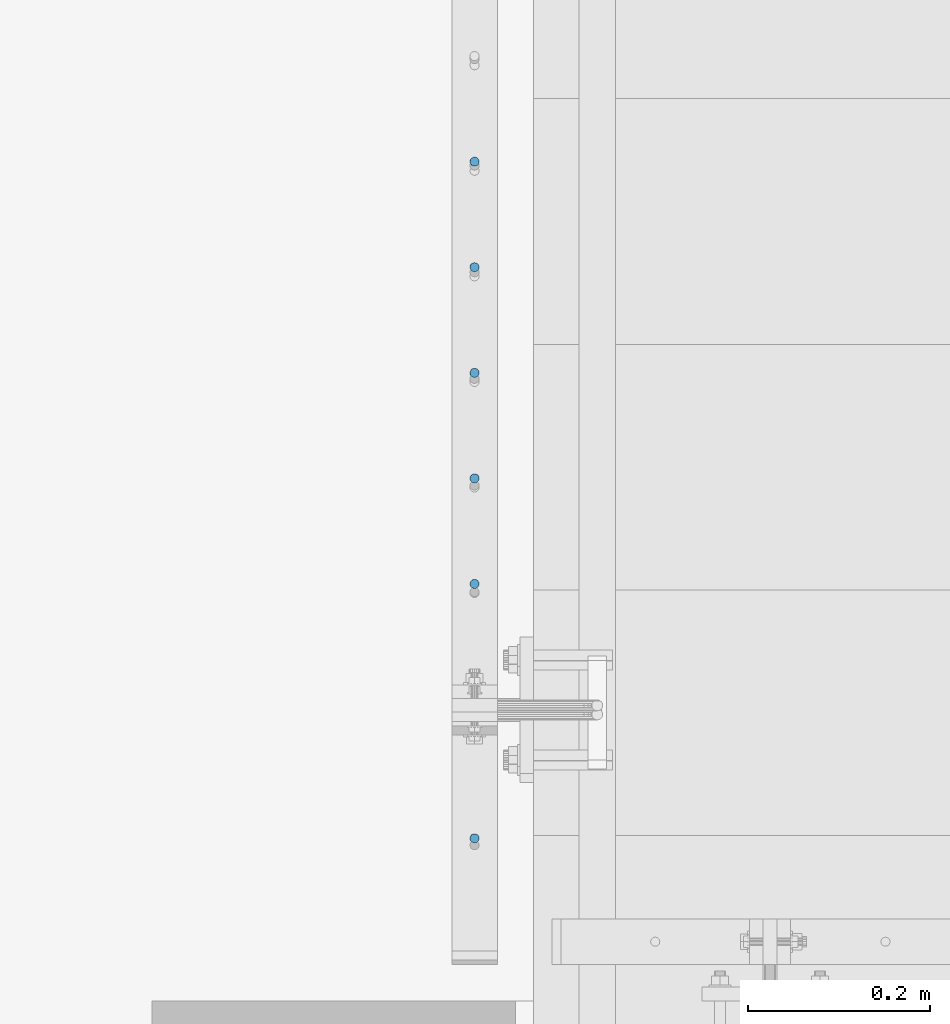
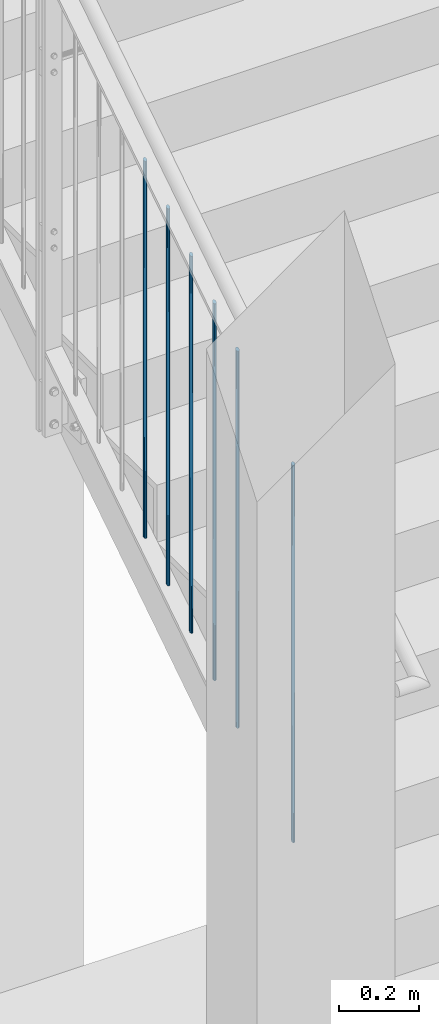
# One storey, part 3 of 296: 6 columns.
"""IFC2X3 building model written with IfcOpenShell, lengths in millimetres."""

from ifc_helpers import new_model, entity, si_unit, converted_unit, frame, origin, origin_with_axes, origin_2d, place, context, project, spatial, circle, extrude, clip, halfspace, material, element, save


model = new_model("IFC2X3")

# Units and contexts
model_context = context("Model", 3, precision=1e-09, world=origin_with_axes())
ifc_project = project(units=[si_unit("LENGTHUNIT", "METRE", prefix="MILLI"), si_unit("AREAUNIT", "SQUARE_METRE"), si_unit("VOLUMEUNIT", "CUBIC_METRE"), converted_unit("PLANEANGLEUNIT", "DEGREE", entity("IfcPlaneAngleMeasure", 0.01745329), si_unit("PLANEANGLEUNIT", "RADIAN"), dimensions=[0, 0, 0, 0, 0, 0, 0])], contexts=[model_context])

# Site, building, storey
site_placement = place(None, origin_with_axes())
site = spatial("IfcSite", under=ifc_project, at=site_placement, Name="TZD-S?d | Treppenhausgel?nder", CompositionType="ELEMENT")
building_placement = place(site_placement, origin_with_axes())
building = spatial("IfcBuilding", under=site, at=building_placement, Name="Struktur 1", CompositionType="ELEMENT")
storey_placement = place(building_placement, origin_with_axes())
storey = spatial("IfcBuildingStorey", under=building, at=storey_placement, Name="Default Storey", CompositionType="ELEMENT", Elevation=0.0)

# Columns
ifc_material = material(Name="S235JR")
column_1_placement = place(None, frame((-45.0, -3596.25, 10251.662806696), z_axis=(0.0, 0.0, 1.0), x_axis=(0.0, 1.0, 0.0)))
element("IfcColumn", 1, at=column_1_placement, inside=storey, material=ifc_material, Name="-", ObjectType="-", context=model_context, shape_type="Clipping", body=[
    clip(clip(extrude(circle(Radius=5.0, at=origin_2d()), origin(), (0.0, 0.0, 1.0), 1184.934501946), halfspace(frame((-2149.423802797, -45.0, -1377.246880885), z_axis=(-0.543478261, 0.0, 0.839423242), x_axis=(0.0, -1.0, 0.0)), True)), halfspace(frame((-2676.878925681, -45.0, -562.571996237), z_axis=(0.543478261, 0.0, -0.839423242), x_axis=(0.0, 1.0, 0.0)), True)),
])
column_2_placement = place(None, frame((-45.0, -2851.9444444, 10733.557837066), z_axis=(0.0, 0.0, 1.0), x_axis=(0.0, 1.0, 0.0)))
element("IfcColumn", 2, at=column_2_placement, inside=storey, material=ifc_material, Name="-", ObjectType="-", context=model_context, shape_type="Clipping", body=[
    clip(clip(extrude(circle(Radius=5.0, at=origin_2d()), origin(), (0.0, 0.0, 1.0), 1184.934501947), halfspace(frame((-3421.184481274, -45.0, -1044.467026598), z_axis=(0.543478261, 0.0, -0.839423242), x_axis=(0.0, 1.0, 0.0)), True)), halfspace(frame((-2893.729358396, -45.0, -1859.141911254), z_axis=(-0.543478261, 0.0, 0.839423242), x_axis=(0.0, -1.0, 0.0)), True)),
])
column_3_placement = place(None, frame((-45.0, -2968.0555555, 10658.38257203), z_axis=(0.0, 0.0, 1.0), x_axis=(0.0, 1.0, 0.0)))
element("IfcColumn", 3, at=column_3_placement, inside=storey, material=ifc_material, Name="-", ObjectType="-", context=model_context, shape_type="Clipping", body=[
    clip(clip(extrude(circle(Radius=5.0, at=origin_2d()), origin(), (0.0, 0.0, 1.0), 1184.934501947), halfspace(frame((-3305.073370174, -45.0, -969.291761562), z_axis=(0.543478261, 0.0, -0.839423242), x_axis=(0.0, 1.0, 0.0)), True)), halfspace(frame((-2777.618247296, -45.0, -1783.966646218), z_axis=(-0.543478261, 0.0, 0.839423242), x_axis=(0.0, -1.0, 0.0)), True)),
])
column_4_placement = place(None, frame((-45.0, -3084.1666666, 10583.207306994), z_axis=(0.0, 0.0, 1.0), x_axis=(0.0, 1.0, 0.0)))
element("IfcColumn", 4, at=column_4_placement, inside=storey, material=ifc_material, Name="-", ObjectType="-", context=model_context, shape_type="Clipping", body=[
    clip(clip(extrude(circle(Radius=5.0, at=origin_2d()), origin(), (0.0, 0.0, 1.0), 1184.934501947), halfspace(frame((-2661.507136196, -45.0, -1708.791381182), z_axis=(-0.543478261, 0.0, 0.839423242), x_axis=(0.0, -1.0, 0.0)), True)), halfspace(frame((-3188.962259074, -45.0, -894.116496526), z_axis=(0.543478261, 0.0, -0.839423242), x_axis=(0.0, 1.0, 0.0)), True)),
])
column_5_placement = place(None, frame((-45.0, -3200.2777777, 10508.032041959), z_axis=(0.0, 0.0, 1.0), x_axis=(0.0, 1.0, 0.0)))
element("IfcColumn", 5, at=column_5_placement, inside=storey, material=ifc_material, Name="-", ObjectType="-", context=model_context, shape_type="Clipping", body=[
    clip(clip(extrude(circle(Radius=5.0, at=origin_2d()), origin(), (0.0, 0.0, 1.0), 1184.934501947), halfspace(frame((-2545.396025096, -45.0, -1633.616116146), z_axis=(-0.543478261, 0.0, 0.839423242), x_axis=(0.0, -1.0, 0.0)), True)), halfspace(frame((-3072.851147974, -45.0, -818.94123149), z_axis=(0.543478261, 0.0, -0.839423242), x_axis=(0.0, 1.0, 0.0)), True)),
])
column_6_placement = place(None, frame((-45.0, -3316.3888888, 10432.856776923), z_axis=(0.0, 0.0, 1.0), x_axis=(0.0, 1.0, 0.0)))
element("IfcColumn", 6, at=column_6_placement, inside=storey, material=ifc_material, Name="-", ObjectType="-", context=model_context, shape_type="Clipping", body=[
    clip(clip(extrude(circle(Radius=5.0, at=origin_2d()), origin(), (0.0, 0.0, 1.0), 1184.934501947), halfspace(frame((-2956.740036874, -45.0, -743.765966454), z_axis=(0.543478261, 0.0, -0.839423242), x_axis=(0.0, 1.0, 0.0)), True)), halfspace(frame((-2429.284913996, -45.0, -1558.44085111), z_axis=(-0.543478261, 0.0, 0.839423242), x_axis=(0.0, -1.0, 0.0)), True)),
])

save(model, "model.ifc")
